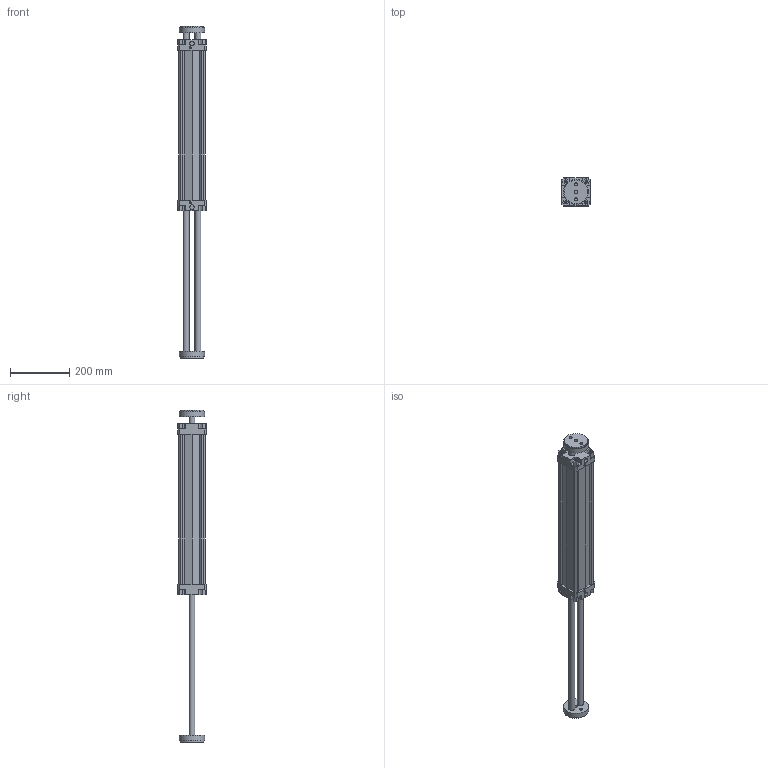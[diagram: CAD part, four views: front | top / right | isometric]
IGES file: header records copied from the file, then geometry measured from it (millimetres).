
Global section: file name: 132#_080_0450_06; native system: Autodesk Inventor 2014; preprocessor: unknown; author: A. Manieri; date: 20161006.162520; units: millimetre
Bounding box: 95 x 95 x 1120 mm (x, y, z)
Volume: 2626187.3 mm3; surface area: 577386.1 mm2
Topology: 2 solids, 2 shells, 190 faces, 518 edges, 354 vertices
Faces by surface type: bspline 190
